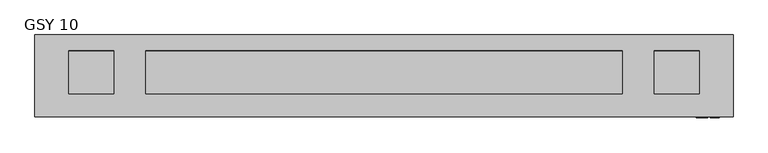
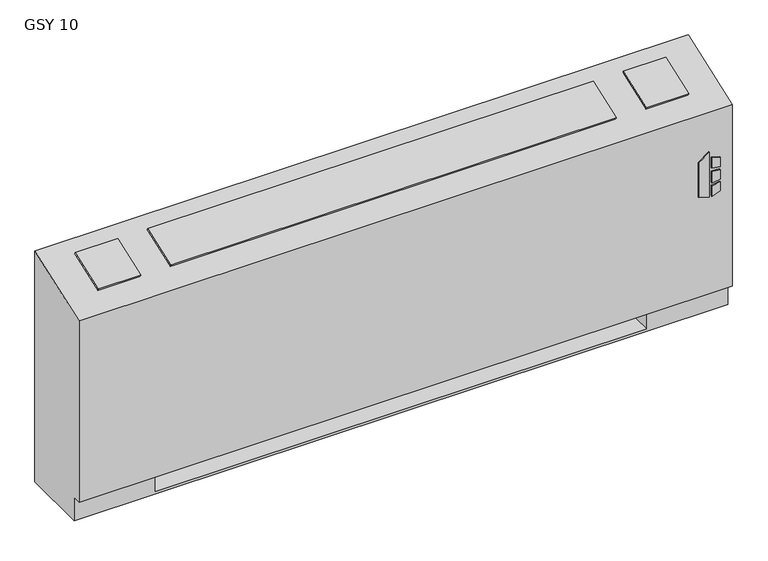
"""IFC4 building model written with IfcOpenShell, lengths in millimetres: proxy geometry, Vertical_Fan_Coil_Unit_-_GSY_-_IEC_-_2-Pipe_TS-FR_RH_2022 : GSY 10."""

import ifcopenshell
import ifcopenshell.guid

model = None  # the IFC model being written
_history = None  # IfcOwnerHistory: only IFC2X3 demands one
_inside = {}  # id of a spatial element -> (the spatial element, [elements in it])
_under = {}  # id of a project, library or spatial element -> (it, [spatial elements below it])
_declared = {}  # id of a project -> (the project, [libraries it declares])
_typed = {}  # id of a type object -> (the type object, [elements of that type])
_made_of = {}  # id of a material, layer set ... -> (it, [elements and type objects made of it])


def new_model(schema):
    """Start an empty IFC model of exactly this schema.

    Asked for "IFC4X3", IfcOpenShell would pick the latest addendum, in which some entities
    have other attributes; the version numbers below select the first issue.
    IFC2X3 requires an IfcOwnerHistory on every rooted entity: one is made here for all.
    """
    global model, _history
    if schema == "IFC4X3":
        model = ifcopenshell.file(schema_version=(4, 3, 0, 0))
    else:
        model = ifcopenshell.file(schema=schema)
    _inside.clear()
    _under.clear()
    _declared.clear()
    _typed.clear()
    _made_of.clear()
    _history = None
    if model.schema == "IFC2X3":
        org = make("IfcOrganization", Name="unknown")
        user = make(
            "IfcPersonAndOrganization",
            ThePerson=make("IfcPerson", FamilyName="unknown"),
            TheOrganization=org,
        )
        app = make(
            "IfcApplication",
            ApplicationDeveloper=org,
            Version="unknown",
            ApplicationFullName="unknown",
            ApplicationIdentifier="unknown",
        )
        _history = make(
            "IfcOwnerHistory",
            OwningUser=user,
            OwningApplication=app,
            ChangeAction="ADDED",
            CreationDate=0,
        )
    return model


def make(cls, **values):
    """One entity of the class cls with the attributes given. An attribute that is None is left unset."""
    return model.create_entity(
        cls, **{name: value for name, value in values.items() if value is not None}
    )


def rooted(cls, **values):
    """An entity with a GlobalId (a new one), such as an element, a storey or a relation."""
    return make(cls, GlobalId=ifcopenshell.guid.new(), OwnerHistory=_history, **values)


def si_unit(unit_type, name, prefix=None):
    """IfcSIUnit, for example si_unit("LENGTHUNIT", "METRE", prefix="MILLI")."""
    return make("IfcSIUnit", UnitType=unit_type, Prefix=prefix, Name=name)


def assignment(units):
    """IfcUnitAssignment: the units of a project."""
    return None if units is None else make("IfcUnitAssignment", Units=units)


def point(xyz):
    """IfcCartesianPoint."""
    return None if xyz is None else make("IfcCartesianPoint", Coordinates=xyz)


def direction(xyz):
    """IfcDirection."""
    return None if xyz is None else make("IfcDirection", DirectionRatios=xyz)


def frame(location, z_axis=None, x_axis=None):
    """IfcAxis2Placement3D, a coordinate frame: its origin and axes. An axis left out is left unset."""
    return make(
        "IfcAxis2Placement3D",
        Location=point(location),
        Axis=direction(z_axis),
        RefDirection=direction(x_axis),
    )


def frame_2d(location, x_axis=None):
    """IfcAxis2Placement2D, a coordinate frame in the plane: its origin and x axis."""
    return make(
        "IfcAxis2Placement2D", Location=point(location), RefDirection=direction(x_axis)
    )


def origin():
    """The frame at (0, 0, 0) with its axes left unset."""
    return frame((0.0, 0.0, 0.0))


def place(relative_to, where):
    """IfcLocalPlacement: puts the frame where relative to a parent placement (None: the world)."""
    return make(
        "IfcLocalPlacement", PlacementRelTo=relative_to, RelativePlacement=where
    )


def context(
    kind, dimensions, precision=None, world=None, true_north=None, identifier=None
):
    """IfcGeometricRepresentationContext, for example the 3D "Model" context."""
    return make(
        "IfcGeometricRepresentationContext",
        ContextIdentifier=identifier,
        ContextType=kind,
        CoordinateSpaceDimension=dimensions,
        Precision=precision,
        WorldCoordinateSystem=world,
        TrueNorth=true_north,
    )


def project(units=None, contexts=None):
    """IfcProject with its units and contexts."""
    return rooted(
        "IfcProject",
        Name="project",
        RepresentationContexts=contexts,
        UnitsInContext=assignment(units),
    )


def spatial(cls, under=None, at=None, **own):
    """A site, building, storey or space (cls), placed at a placement, below another one or the project."""
    s = rooted(cls, ObjectPlacement=at, **own)
    if under is not None:
        _under.setdefault(under.id(), (under, []))[1].append(s)
    return s


def polyline(points):
    """IfcPolyline through the points."""
    return make("IfcPolyline", Points=[point(p) for p in points])


def circle_curve(where, radius):
    """IfcCircle in the frame where."""
    return make("IfcCircle", Position=where, Radius=radius)


def trimmed(basis, trim1, trim2, sense, master):
    """IfcTrimmedCurve: the piece of a basis curve between two trims."""
    return make(
        "IfcTrimmedCurve",
        BasisCurve=basis,
        Trim1=trim1,
        Trim2=trim2,
        SenseAgreement=sense,
        MasterRepresentation=master,
    )


def segment(curve, same_sense, transition):
    """IfcCompositeCurveSegment."""
    return make(
        "IfcCompositeCurveSegment",
        Transition=transition,
        SameSense=same_sense,
        ParentCurve=curve,
    )


def composite_curve(segments, self_intersect=None):
    """IfcCompositeCurve: segments joined end to end."""
    return make("IfcCompositeCurve", Segments=segments, SelfIntersect=self_intersect)


def outline(outer, holes=None, kind="AREA"):
    """IfcArbitraryClosedProfileDef: a profile drawn as a closed curve; with holes, ...WithVoids."""
    if holes is None:
        return make("IfcArbitraryClosedProfileDef", ProfileType=kind, OuterCurve=outer)
    return make(
        "IfcArbitraryProfileDefWithVoids",
        ProfileType=kind,
        OuterCurve=outer,
        InnerCurves=holes,
    )


def extrude(swept, where, along, depth):
    """IfcExtrudedAreaSolid: the profile swept, set in the frame where, extruded along a direction by depth."""
    return make(
        "IfcExtrudedAreaSolid",
        SweptArea=swept,
        Position=where,
        ExtrudedDirection=direction(along),
        Depth=depth,
    )


def shape(context_of_items, identifier, shape_type, items):
    """IfcShapeRepresentation: the items that make up one representation, for example the "Body"."""
    return make(
        "IfcShapeRepresentation",
        ContextOfItems=context_of_items,
        RepresentationIdentifier=identifier,
        RepresentationType=shape_type,
        Items=items,
    )


def source(mapping_origin, context_of_items, identifier, shape_type, items):
    """IfcRepresentationMap: a shape defined once, which mapped items show again and again."""
    return make(
        "IfcRepresentationMap",
        MappingOrigin=mapping_origin,
        MappedRepresentation=shape(context_of_items, identifier, shape_type, items),
    )


def transform(
    local_origin,
    x_axis=None,
    y_axis=None,
    z_axis=None,
    scale=None,
    scale2=None,
    scale3=None,
    uniform=True,
):
    """IfcCartesianTransformationOperator3D, or its non-uniform kind. x_axis, y_axis, z_axis: its Axis1, 2, 3."""
    if uniform:
        return make(
            "IfcCartesianTransformationOperator3D",
            Axis1=direction(x_axis),
            Axis2=direction(y_axis),
            LocalOrigin=point(local_origin),
            Scale=scale,
            Axis3=direction(z_axis),
        )
    return make(
        "IfcCartesianTransformationOperator3DnonUniform",
        Axis1=direction(x_axis),
        Axis2=direction(y_axis),
        LocalOrigin=point(local_origin),
        Scale=scale,
        Axis3=direction(z_axis),
        Scale2=scale2,
        Scale3=scale3,
    )


def mapped(mapping_source, mapping_target):
    """IfcMappedItem: shows the shape of a source again, moved by a transform."""
    return make(
        "IfcMappedItem", MappingSource=mapping_source, MappingTarget=mapping_target
    )


def made_of(thing, what):
    """Note that an element or type object is made of a material, layer set ...; save() writes the relation."""
    if what is not None:
        _made_of.setdefault(what.id(), (what, []))[1].append(thing)
    return thing


def element(
    cls,
    number,
    at=None,
    inside=None,
    cuts=None,
    type_object=None,
    material=None,
    context=None,
    identifier="Body",
    shape_type=None,
    held_by="IfcProductDefinitionShape",
    body=None,
    shapes=None,
    **own,
):
    """One element of the class cls, such as IfcWall. Its Tag is "e" and its number.

    at: its placement. inside: the storey or other place that contains it. cuts: it is an
    opening in that element (IfcRelVoidsElement). A single representation is given by context,
    identifier, shape_type and body (its items); several are given by shapes. held_by: the class
    of the entity that holds the representations. save() writes the other relations.
    """
    e = rooted(cls, Tag="e%d" % number, ObjectPlacement=at, **own)
    if body is not None:
        shapes = [shape(context, identifier, shape_type, body)]
    if shapes is not None:
        e.Representation = make(held_by, Representations=shapes)
    if inside is not None:
        _inside.setdefault(inside.id(), (inside, []))[1].append(e)
    if cuts is not None:
        rooted(
            "IfcRelVoidsElement", RelatingBuildingElement=cuts, RelatedOpeningElement=e
        )
    if type_object is not None:
        _typed.setdefault(type_object.id(), (type_object, []))[1].append(e)
    return made_of(e, material)


def aggregate(whole, parts):
    """IfcRelAggregates: a whole, such as a stair, and the parts it consists of."""
    return rooted("IfcRelAggregates", RelatingObject=whole, RelatedObjects=parts)


def save(model, path):
    """Write the relations noted so far, then the file.

    IfcRelAggregates (storeys below a building ...), IfcRelContainedInSpatialStructure (elements
    in a storey), IfcRelDefinesByType, IfcRelAssociatesMaterial and IfcRelDeclares: one each for
    every whole, place, type object, material and project.
    """
    for whole, parts in _under.values():
        aggregate(whole, parts)
    for where, things in _inside.values():
        rooted(
            "IfcRelContainedInSpatialStructure",
            RelatedElements=things,
            RelatingStructure=where,
        )
    for kind, things in _typed.values():
        rooted("IfcRelDefinesByType", RelatedObjects=things, RelatingType=kind)
    for what, things in _made_of.values():
        rooted("IfcRelAssociatesMaterial", RelatedObjects=things, RelatingMaterial=what)
    for by, libraries in _declared.values():
        rooted("IfcRelDeclares", RelatingContext=by, RelatedDefinitions=libraries)
    model.write(path)


def plane_surface(at):
    """IfcPlane: the flat surface through the origin of the frame at, square to its z axis."""
    return make("IfcPlane", Position=at)


def revolved_surface(curve, axis_point, axis_direction):
    """IfcSurfaceOfRevolution: the curve turned about the line through axis_point along axis_direction."""
    return make(
        "IfcSurfaceOfRevolution",
        SweptCurve=make("IfcArbitraryOpenProfileDef", ProfileType="CURVE", Curve=curve),
        AxisPosition=make("IfcAxis1Placement", Location=point(axis_point), Axis=direction(axis_direction)),
    )


def advanced_brep(points, edges, surfaces, faces):
    """IfcAdvancedBrep: a solid bounded by faces that lie on surfaces and meet in shared edges.

    An edge is (start, end): straight between two places in points (the first is 0);
    or (start, end, curve); or (start, end, curve, False) where it runs against its curve.
    A face is (place in surfaces, loops), or (place, loops, False) where it looks against
    its surface's normal. A loop lists edges by number (the first is 1), with a minus sign
    where the edge is run from its end to its start. The first loop is the outer one.
    """
    corners = [point(p) for p in points]
    vertices = [make("IfcVertexPoint", VertexGeometry=c) for c in corners]
    made = []
    for start, end, *more in edges:
        made.append(
            make(
                "IfcEdgeCurve",
                EdgeStart=vertices[start],
                EdgeEnd=vertices[end],
                EdgeGeometry=more[0] if more else make("IfcPolyline", Points=[corners[start], corners[end]]),
                SameSense=more[1] if len(more) > 1 else True,
            )
        )
    hull = []
    for where, loops, *sense in faces:
        bounds = []
        for j, loop in enumerate(loops):
            ring = [make("IfcOrientedEdge", EdgeElement=made[abs(k) - 1], Orientation=k > 0) for k in loop]
            bounds.append(
                make(
                    "IfcFaceOuterBound" if j == 0 else "IfcFaceBound",
                    Bound=make("IfcEdgeLoop", EdgeList=ring),
                    Orientation=True,
                )
            )
        hull.append(make("IfcAdvancedFace", Bounds=bounds, FaceSurface=surfaces[where], SameSense=sense[0] if sense else True))
    return make("IfcAdvancedBrep", Outer=make("IfcClosedShell", CfsFaces=hull))


def gsy_10_18e08ca5(model_context):
    return source(origin(), model_context, "Body", "SolidModel", [
        extrude(outline(polyline([(391.6086829, 1027.1868862), (381.6606126, 1059.3602728), (523.831537, 1059.3602728), (500.8095309, 1027.1868862), (391.6086829, 1027.1868862)])), frame((0.0, 12.7, 0.0), z_axis=(0.0, 1.0, 0.0), x_axis=(0.0, 0.0, 1.0)), (0.0, 0.0, 1.0), 3.175),
        extrude(outline(polyline([(470.6079683, 1066.1186058), (467.4055757, 1092.2), (496.6344168, 1092.2), (504.6988318, 1066.1186058), (470.6079683, 1066.1186058)])), frame((0.0, 12.7, 0.0), z_axis=(0.0, 1.0, 0.0), x_axis=(0.0, 0.0, 1.0)), (0.0, 0.0, 1.0), 3.175),
        extrude(outline(polyline([(418.7444414, 1092.2), (415.0789404, 1066.1186058), (381.6606126, 1066.1186058), (390.2948498, 1092.2), (418.7444414, 1092.2)])), frame((0.0, 12.7, 0.0), z_axis=(0.0, 1.0, 0.0), x_axis=(0.0, 0.0, 1.0)), (0.0, 0.0, 1.0), 3.175),
        extrude(outline(polyline([(458.0596028, 1092.2), (460.3414292, 1066.1186058), (424.4038806, 1066.1186058), (427.1451456, 1092.2), (458.0596028, 1092.2)])), frame((0.0, 12.7, 0.0), z_axis=(0.0, 1.0, 0.0), x_axis=(0.0, 0.0, 1.0)), (0.0, 0.0, 1.0), 3.175),
        extrude(outline(polyline([(0.0, -126.2347031), (0.0, 0.0), (127.0, 0.0), (127.0, -126.2347031), (0.0, -126.2347031)])), frame((-731.393, 200.4217127, 714.3418685), z_axis=(0.0, -0.33964446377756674, 0.9405538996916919), x_axis=(1.0, 0.0, 0.0)), (0.0, 0.0, 1.0), 6.35),
        extrude(outline(polyline([(0.0, -126.2347031), (0.0, 0.0), (1333.5, 0.0), (1333.5, -126.2347031), (0.0, -126.2347031)])), frame((819.15, 81.6911704, 671.4669504), z_axis=(0.0, -0.3396444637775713, 0.9405538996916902), x_axis=(-1.0, 0.0, 0.0)), (0.0, 0.0, 1.0), 6.35),
        extrude(outline(polyline([(0.0, -126.2347031), (0.0, 0.0), (127.0, 0.0), (127.0, -126.2347031), (0.0, -126.2347031)])), frame((1036.193, 81.6911704, 671.4669504), z_axis=(0.0, -0.3396444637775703, 0.9405538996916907), x_axis=(-1.0, 0.0, 0.0)), (0.0, 0.0, 1.0), 6.35),
        extrude(outline(polyline([(-704.85, 81.534), (-704.85, 223.266), (-127.0, 223.266), (-127.0, 81.534), (-704.85, 81.534)])), frame((0.0, 0.0, 327.025), z_axis=(0.0, 0.0, 1.0), x_axis=(1.0, 0.0, 0.0)), (0.0, 0.0, 1.0), 260.35),
        extrude(outline(composite_curve([segment(trimmed(circle_curve(frame_2d((80.645, 397.002)), 7.9375), [point((80.645, 404.9395))], [point((80.645, 389.0645))], False, "CARTESIAN"), True, "CONTINUOUS"), segment(trimmed(circle_curve(frame_2d((80.645, 397.002)), 7.9375), [point((80.645, 389.0645))], [point((80.645, 404.9395))], False, "CARTESIAN"), True, "CONTINUOUS")], self_intersect=False)), frame((889.0, 0.0, 0.0), z_axis=(1.0, 0.0, 0.0), x_axis=(0.0, 1.0, 0.0)), (0.0, 0.0, 1.0), 50.8),
        extrude(outline(composite_curve([segment(trimmed(circle_curve(frame_2d((156.8958, 535.8892)), 7.9375), [point((156.8958, 543.8267))], [point((156.8958, 527.9517))], False, "CARTESIAN"), True, "CONTINUOUS"), segment(trimmed(circle_curve(frame_2d((156.8958, 535.8892)), 7.9375), [point((156.8958, 527.9517))], [point((156.8958, 543.8267))], False, "CARTESIAN"), True, "CONTINUOUS")], self_intersect=False)), frame((889.0, 0.0, 0.0), z_axis=(1.0, 0.0, 0.0), x_axis=(0.0, 1.0, 0.0)), (0.0, 0.0, 1.0), 50.8),
        advanced_brep(
        [(-825.5, 244.475, 0.0), (1130.3, 244.475, 0.0), (1130.3, 41.275, 0.0), (-825.5, 41.275, 0.0), (-825.5, 244.475, 730.25), (1130.3, 244.475, 730.25), (889.0, 244.475, 73.025), (1117.6, 244.475, 73.025), (1117.6, 244.475, 654.05), (889.0, 244.475, 654.05), (889.0, 244.475, 414.8650565), (917.575, 244.475, 414.8650565), (917.575, 244.475, 385.2349435), (889.0, 244.475, 385.2349435), (889.0, 244.475, 287.3375), (917.575, 244.475, 287.3375), (917.575, 244.475, 258.7625), (889.0, 244.475, 258.7625), (889.0, 244.475, 141.2875), (917.575, 244.475, 141.2875), (917.575, 244.475, 112.7125), (889.0, 244.475, 112.7125), (-584.2, 244.475, 654.05), (-812.8, 244.475, 654.05), (-812.8, 244.475, 73.025), (-584.2, 244.475, 73.025), (-584.2, 244.475, 112.7125), (-612.775, 244.475, 112.7125), (-612.775, 244.475, 141.2875), (-584.2, 244.475, 141.2875), (-584.2, 244.475, 258.7625), (-612.775, 244.475, 258.7625), (-612.775, 244.475, 287.3375), (-584.2, 244.475, 287.3375), (-584.2, 244.475, 385.2349435), (-612.775, 244.475, 385.2349435), (-612.775, 244.475, 414.8650565), (-584.2, 244.475, 414.8650565), (907.2626, 244.475, 127.0), (896.1374, 244.475, 127.0), (907.2626, 244.475, 400.05), (896.1374, 244.475, 400.05), (907.2626, 244.475, 273.05), (896.1374, 244.475, 273.05), (-591.3374, 244.475, 127.0), (-602.4626, 244.475, 127.0), (-591.3374, 244.475, 273.05), (-602.4626, 244.475, 273.05), (-591.3374, 244.475, 400.05), (-602.4626, 244.475, 400.05), (-825.5, 41.275, 73.025), (-825.5, 15.875, 73.025), (-825.5, 15.875, 647.7), (1130.3, 15.875, 73.025), (1130.3, 15.875, 647.7), (1130.3, 41.275, 73.025), (-584.2, 41.275, 73.025), (-584.2, 225.425, 73.025), (889.0, 225.425, 73.025), (889.0, 41.275, 73.025), (889.0, 41.275, 6.35), (-584.2, 41.275, 6.35), (889.0, 41.275, 654.05), (1117.6, 41.275, 654.05), (1117.6, 41.275, 73.025), (889.0, 41.275, 73.025), (-584.2, 41.275, 654.05), (-584.2, 41.275, 73.025), (-812.8, 41.275, 73.025), (-812.8, 41.275, 654.05), (889.0, 225.425, 73.025), (889.0, 238.125, 112.7125), (889.0, 238.125, 141.2875), (889.0, 238.125, 258.7625), (889.0, 238.125, 287.3375), (889.0, 238.125, 385.2349435), (889.0, 238.125, 414.8650565), (-584.2, 225.425, 73.025), (-584.2, 238.125, 414.8650565), (-584.2, 238.125, 385.2349435), (-584.2, 238.125, 287.3375), (-584.2, 238.125, 258.7625), (-584.2, 238.125, 141.2875), (-584.2, 238.125, 112.7125), (-584.2, 225.425, 6.35), (889.0, 225.425, 6.35), (917.575, 238.125, 112.7125), (917.575, 238.125, 141.2875), (896.1374, 238.125, 127.0), (907.2626, 238.125, 127.0), (917.575, 238.125, 258.7625), (917.575, 238.125, 287.3375), (896.1374, 238.125, 273.05), (907.2626, 238.125, 273.05), (917.575, 238.125, 385.2349435), (917.575, 238.125, 414.8650565), (896.1374, 238.125, 400.05), (907.2626, 238.125, 400.05), (-612.775, 238.125, 141.2875), (-612.775, 238.125, 112.7125), (-602.4626, 238.125, 127.0), (-591.3374, 238.125, 127.0), (-612.775, 238.125, 287.3375), (-612.775, 238.125, 258.7625), (-602.4626, 238.125, 273.05), (-591.3374, 238.125, 273.05), (-612.775, 238.125, 414.8650565), (-612.775, 238.125, 385.2349435), (-602.4626, 238.125, 400.05), (-591.3374, 238.125, 400.05)],
        [
            (0, 1),
            (1, 2),
            (2, 3),
            (3, 0),
            (0, 4),
            (4, 5),
            (5, 1),
            (6, 7),
            (7, 8),
            (8, 9),
            (9, 10),
            (10, 11),
            (11, 12),
            (12, 13),
            (13, 14),
            (14, 15),
            (15, 16),
            (16, 17),
            (17, 18),
            (18, 19),
            (19, 20),
            (20, 21),
            (21, 6),
            (22, 23),
            (23, 24),
            (24, 25),
            (25, 26),
            (26, 27),
            (27, 28),
            (28, 29),
            (29, 30),
            (30, 31),
            (31, 32),
            (32, 33),
            (33, 34),
            (34, 35),
            (35, 36),
            (36, 37),
            (37, 22),
            (38, 39, circle_curve(frame((901.7, 244.475, 127.0), z_axis=(0.0, -1.0, 0.0), x_axis=(-1.0, 0.0, 0.0)), 5.5626)),
            (39, 38, circle_curve(frame((901.7, 244.475, 127.0), z_axis=(0.0, -1.0, 0.0), x_axis=(-1.0, 0.0, 0.0)), 5.5626)),
            (40, 41, circle_curve(frame((901.7, 244.475, 400.05), z_axis=(0.0, -1.0, 0.0), x_axis=(-1.0, 0.0, 0.0)), 5.5626)),
            (41, 40, circle_curve(frame((901.7, 244.475, 400.05), z_axis=(0.0, -1.0, 0.0), x_axis=(-1.0, 0.0, 0.0)), 5.5626)),
            (42, 43, circle_curve(frame((901.7, 244.475, 273.05), z_axis=(0.0, -1.0, 0.0), x_axis=(-1.0, 0.0, 0.0)), 5.5626)),
            (43, 42, circle_curve(frame((901.7, 244.475, 273.05), z_axis=(0.0, -1.0, 0.0), x_axis=(-1.0, 0.0, 0.0)), 5.5626)),
            (44, 45, circle_curve(frame((-596.9, 244.475, 127.0), z_axis=(0.0, -1.0, 0.0), x_axis=(-1.0, 0.0, 0.0)), 5.5626)),
            (45, 44, circle_curve(frame((-596.9, 244.475, 127.0), z_axis=(0.0, -1.0, 0.0), x_axis=(-1.0, 0.0, 0.0)), 5.5626)),
            (46, 47, circle_curve(frame((-596.9, 244.475, 273.05), z_axis=(0.0, -1.0, 0.0), x_axis=(-1.0, 0.0, 0.0)), 5.5626)),
            (47, 46, circle_curve(frame((-596.9, 244.475, 273.05), z_axis=(0.0, -1.0, 0.0), x_axis=(-1.0, 0.0, 0.0)), 5.5626)),
            (48, 49, circle_curve(frame((-596.9, 244.475, 400.05), z_axis=(0.0, -1.0, 0.0), x_axis=(-1.0, 0.0, 0.0)), 5.5626)),
            (49, 48, circle_curve(frame((-596.9, 244.475, 400.05), z_axis=(0.0, -1.0, 0.0), x_axis=(-1.0, 0.0, 0.0)), 5.5626)),
            (3, 50),
            (50, 51),
            (51, 52),
            (52, 4),
            (51, 53),
            (53, 54),
            (54, 52),
            (5, 54),
            (53, 55),
            (55, 2),
            (50, 56),
            (56, 57),
            (57, 58),
            (58, 59),
            (59, 55),
            (59, 60),
            (60, 61),
            (61, 56),
            (62, 63),
            (63, 64),
            (64, 65),
            (65, 62),
            (66, 67),
            (67, 68),
            (68, 69),
            (69, 66),
            (65, 70),
            (70, 6),
            (21, 71),
            (71, 72),
            (72, 18),
            (17, 73),
            (73, 74),
            (74, 14),
            (13, 75),
            (75, 76),
            (76, 10),
            (9, 62),
            (64, 7),
            (63, 8),
            (69, 23),
            (22, 66),
            (68, 24),
            (67, 77),
            (77, 25),
            (37, 78),
            (78, 79),
            (79, 34),
            (33, 80),
            (80, 81),
            (81, 30),
            (29, 82),
            (82, 83),
            (83, 26),
            (57, 84),
            (84, 85),
            (85, 58),
            (85, 60),
            (84, 61),
            (71, 86),
            (86, 87),
            (87, 72),
            (88, 89, circle_curve(frame((901.7, 238.125, 127.0), z_axis=(0.0, 1.0, 0.0), x_axis=(-1.0, 0.0, 0.0)), 5.5626)),
            (89, 88, circle_curve(frame((901.7, 238.125, 127.0), z_axis=(0.0, 1.0, 0.0), x_axis=(-1.0, 0.0, 0.0)), 5.5626)),
            (73, 90),
            (90, 91),
            (91, 74),
            (92, 93, circle_curve(frame((901.7, 238.125, 273.05), z_axis=(0.0, 1.0, 0.0), x_axis=(-1.0, 0.0, 0.0)), 5.5626)),
            (93, 92, circle_curve(frame((901.7, 238.125, 273.05), z_axis=(0.0, 1.0, 0.0), x_axis=(-1.0, 0.0, 0.0)), 5.5626)),
            (75, 94),
            (94, 95),
            (95, 76),
            (96, 97, circle_curve(frame((901.7, 238.125, 400.05), z_axis=(0.0, 1.0, 0.0), x_axis=(-1.0, 0.0, 0.0)), 5.5626)),
            (97, 96, circle_curve(frame((901.7, 238.125, 400.05), z_axis=(0.0, 1.0, 0.0), x_axis=(-1.0, 0.0, 0.0)), 5.5626)),
            (98, 99),
            (99, 83),
            (82, 98),
            (100, 101, circle_curve(frame((-596.9, 238.125, 127.0), z_axis=(0.0, 1.0, 0.0), x_axis=(-1.0, 0.0, 0.0)), 5.5626)),
            (101, 100, circle_curve(frame((-596.9, 238.125, 127.0), z_axis=(0.0, 1.0, 0.0), x_axis=(-1.0, 0.0, 0.0)), 5.5626)),
            (102, 103),
            (103, 81),
            (80, 102),
            (104, 105, circle_curve(frame((-596.9, 238.125, 273.05), z_axis=(0.0, 1.0, 0.0), x_axis=(-1.0, 0.0, 0.0)), 5.5626)),
            (105, 104, circle_curve(frame((-596.9, 238.125, 273.05), z_axis=(0.0, 1.0, 0.0), x_axis=(-1.0, 0.0, 0.0)), 5.5626)),
            (106, 107),
            (107, 79),
            (78, 106),
            (108, 109, circle_curve(frame((-596.9, 238.125, 400.05), z_axis=(0.0, 1.0, 0.0), x_axis=(-1.0, 0.0, 0.0)), 5.5626)),
            (109, 108, circle_curve(frame((-596.9, 238.125, 400.05), z_axis=(0.0, 1.0, 0.0), x_axis=(-1.0, 0.0, 0.0)), 5.5626)),
            (87, 19),
            (86, 20),
            (91, 15),
            (90, 16),
            (95, 11),
            (94, 12),
            (28, 98),
            (99, 27),
            (32, 102),
            (103, 31),
            (36, 106),
            (107, 35),
            (88, 39),
            (38, 89),
            (96, 41),
            (40, 97),
            (92, 43),
            (42, 93),
            (100, 45),
            (44, 101),
            (104, 47),
            (46, 105),
            (108, 49),
            (48, 109),
        ],
        [
            plane_surface(frame((-825.5, 244.475, 0.0), z_axis=(0.0, 0.0, -1.0), x_axis=(1.0, 0.0, 0.0))),
            plane_surface(frame((1130.3, 244.475, 730.25), z_axis=(0.0, 1.0, 0.0), x_axis=(0.0, 0.0, -1.0))),
            plane_surface(frame((-825.5, 244.475, 730.25), z_axis=(-1.0, 0.0, 0.0), x_axis=(0.0, 0.0, -1.0))),
            plane_surface(frame((-825.5, 15.875, 730.25), z_axis=(0.0, -1.0, 0.0), x_axis=(0.0, 0.0, -1.0))),
            plane_surface(frame((1130.3, 15.875, 730.25), z_axis=(1.0, 0.0, 0.0), x_axis=(0.0, 0.0, -1.0))),
            plane_surface(frame((-825.5, 15.875, 73.025), z_axis=(0.0, 0.0, -1.0), x_axis=(1.0, 0.0, 0.0))),
            plane_surface(frame((-825.5, 41.275, 73.025), z_axis=(0.0, -1.0, 0.0), x_axis=(1.0, 0.0, 0.0))),
            plane_surface(frame((889.0, 41.275, 654.05), z_axis=(0.0, 1.0, 0.0), x_axis=(0.0, 0.0, -1.0))),
            plane_surface(frame((889.0, 41.275, 654.05), z_axis=(1.0, 0.0, 0.0), x_axis=(0.0, 1.0, 0.0))),
            plane_surface(frame((889.0, 41.275, 73.025), z_axis=(0.0, 0.0, 1.0), x_axis=(0.0, 1.0, 0.0))),
            plane_surface(frame((1117.6, 41.275, 73.025), z_axis=(-1.0, 0.0, 0.0), x_axis=(0.0, 1.0, 0.0))),
            plane_surface(frame((1117.6, 41.275, 654.05), z_axis=(0.0, 0.0, -1.0), x_axis=(0.0, 1.0, 0.0))),
            plane_surface(frame((-584.2, 41.275, 654.05), z_axis=(0.0, 0.0, -1.0), x_axis=(0.0, 1.0, 0.0))),
            plane_surface(frame((-812.8, 41.275, 654.05), z_axis=(1.0, 0.0, 0.0), x_axis=(0.0, 1.0, 0.0))),
            plane_surface(frame((-812.8, 41.275, 73.025), z_axis=(0.0, 0.0, 1.0), x_axis=(0.0, 1.0, 0.0))),
            plane_surface(frame((-584.2, 41.275, 73.025), z_axis=(-1.0, 0.0, 0.0), x_axis=(0.0, 1.0, 0.0))),
            plane_surface(frame((889.0, 225.425, 73.025), z_axis=(0.0, -1.0, 0.0), x_axis=(0.0, 0.0, -1.0))),
            plane_surface(frame((889.0, 225.425, 73.025), z_axis=(-1.0, 0.0, 0.0), x_axis=(0.0, -1.0, 0.0))),
            plane_surface(frame((889.0, 225.425, 6.35), z_axis=(0.0, 0.0, 1.0), x_axis=(0.0, -1.0, 0.0))),
            plane_surface(frame((-584.2, 225.425, 6.35), z_axis=(1.0, 0.0, 0.0), x_axis=(0.0, -1.0, 0.0))),
            plane_surface(frame((917.575, 238.125, 141.2875), z_axis=(0.0, -1.0, 0.0), x_axis=(-1.0, 0.0, 0.0))),
            plane_surface(frame((889.0, 244.475, 141.2875), z_axis=(0.0, 0.0, 1.0), x_axis=(0.0, -1.0, 0.0))),
            plane_surface(frame((917.575, 244.475, 141.2875), z_axis=(1.0, 0.0, 0.0), x_axis=(0.0, -1.0, 0.0))),
            plane_surface(frame((917.575, 244.475, 112.7125), z_axis=(0.0, 0.0, -1.0), x_axis=(0.0, -1.0, 0.0))),
            plane_surface(frame((889.0, 244.475, 287.3375), z_axis=(0.0, 0.0, 1.0), x_axis=(0.0, -1.0, 0.0))),
            plane_surface(frame((917.575, 244.475, 287.3375), z_axis=(1.0, 0.0, 0.0), x_axis=(0.0, -1.0, 0.0))),
            plane_surface(frame((917.575, 244.475, 258.7625), z_axis=(0.0, 0.0, -1.0), x_axis=(0.0, -1.0, 0.0))),
            plane_surface(frame((889.0, 244.475, 414.8650565), z_axis=(0.0, 0.0, 1.0), x_axis=(0.0, -1.0, 0.0))),
            plane_surface(frame((917.575, 244.475, 414.8650565), z_axis=(1.0, 0.0, 0.0), x_axis=(0.0, -1.0, 0.0))),
            plane_surface(frame((917.575, 244.475, 385.2349435), z_axis=(0.0, 0.0, -1.0), x_axis=(0.0, -1.0, 0.0))),
            plane_surface(frame((-612.775, 244.475, 141.2875), z_axis=(0.0, 0.0, 1.0), x_axis=(0.0, -1.0, 0.0))),
            plane_surface(frame((-584.2, 244.475, 112.7125), z_axis=(0.0, 0.0, -1.0), x_axis=(0.0, -1.0, 0.0))),
            plane_surface(frame((-612.775, 244.475, 112.7125), z_axis=(-1.0, 0.0, 0.0), x_axis=(0.0, -1.0, 0.0))),
            plane_surface(frame((-612.775, 244.475, 287.3375), z_axis=(0.0, 0.0, 1.0), x_axis=(0.0, -1.0, 0.0))),
            plane_surface(frame((-584.2, 244.475, 258.7625), z_axis=(0.0, 0.0, -1.0), x_axis=(0.0, -1.0, 0.0))),
            plane_surface(frame((-612.775, 244.475, 258.7625), z_axis=(-1.0, 0.0, 0.0), x_axis=(0.0, -1.0, 0.0))),
            plane_surface(frame((-612.775, 244.475, 414.8650565), z_axis=(0.0, 0.0, 1.0), x_axis=(0.0, -1.0, 0.0))),
            plane_surface(frame((-584.2, 244.475, 385.2349435), z_axis=(0.0, 0.0, -1.0), x_axis=(0.0, -1.0, 0.0))),
            plane_surface(frame((-612.775, 244.475, 385.2349435), z_axis=(-1.0, 0.0, 0.0), x_axis=(0.0, -1.0, 0.0))),
            revolved_surface(polyline([(896.1374000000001, 238.125, 127.0), (896.1374000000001, 244.475, 127.0)]), (901.7, 244.475, 127.0), (0.0, -1.0, 0.0)),
            revolved_surface(polyline([(896.1374000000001, 238.125, 400.05), (896.1374000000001, 244.475, 400.05)]), (901.7, 244.475, 400.05), (0.0, -1.0, 0.0)),
            revolved_surface(polyline([(896.1374000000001, 238.125, 273.05), (896.1374000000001, 244.475, 273.05)]), (901.7, 244.475, 273.05), (0.0, -1.0, 0.0)),
            revolved_surface(polyline([(-602.4626, 238.125, 127.0), (-602.4626, 244.475, 127.0)]), (-596.9, 244.475, 127.0), (0.0, -1.0, 0.0)),
            revolved_surface(polyline([(-602.4626, 238.125, 273.05), (-602.4626, 244.475, 273.05)]), (-596.9, 244.475, 273.05), (0.0, -1.0, 0.0)),
            revolved_surface(polyline([(-602.4626, 238.125, 400.05), (-602.4626, 244.475, 400.05)]), (-596.9, 244.475, 400.05), (0.0, -1.0, 0.0)),
            plane_surface(frame((-825.5, 244.475, 730.25), z_axis=(0.0, -0.33964446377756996, 0.9405538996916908), x_axis=(1.0, 0.0, 0.0))),
        ],
        [
            (0, [[1, 2, 3, 4]]),
            (1, [[-1, 5, 6, 7], [8, 9, 10, 11, 12, 13, 14, 15, 16, 17, 18, 19, 20, 21, 22, 23], [24, 25, 26, 27, 28, 29, 30, 31, 32, 33, 34, 35, 36, 37, 38, 39], [40, 41], [42, 43], [44, 45], [46, 47], [48, 49], [50, 51]]),
            (2, [[-5, -4, 52, 53, 54, 55]]),
            (3, [[56, 57, 58, -54]]),
            (4, [[-7, 59, -57, 60, 61, -2]]),
            (5, [[-53, 62, 63, 64, 65, 66, -60, -56]]),
            (6, [[-3, -61, -66, 67, 68, 69, -62, -52]]),
            (7, [[70, 71, 72, 73]]),
            (7, [[74, 75, 76, 77]]),
            (8, [[-73, 78, 79, -23, 80, 81, 82, -19, 83, 84, 85, -15, 86, 87, 88, -11, 89]]),
            (9, [[-72, 90, -8, -79, -78]]),
            (10, [[-71, 91, -9, -90]]),
            (11, [[-70, -89, -10, -91]]),
            (12, [[-77, 92, -24, 93]]),
            (13, [[-76, 94, -25, -92]]),
            (14, [[-75, 95, 96, -26, -94]]),
            (15, [[-74, -93, -39, 97, 98, 99, -35, 100, 101, 102, -31, 103, 104, 105, -27, -96, -95]]),
            (16, [[-64, 106, 107, 108]]),
            (17, [[-108, 109, -67, -65]]),
            (18, [[-107, 110, -68, -109]]),
            (19, [[-106, -63, -69, -110]]),
            (20, [[111, 112, 113, -81], [114, 115]]),
            (20, [[116, 117, 118, -84], [119, 120]]),
            (20, [[121, 122, 123, -87], [124, 125]]),
            (20, [[126, 127, -104, 128], [129, 130]]),
            (20, [[131, 132, -101, 133], [134, 135]]),
            (20, [[136, 137, -98, 138], [139, 140]]),
            (21, [[-113, 141, -20, -82]]),
            (22, [[-112, 142, -21, -141]]),
            (23, [[-111, -80, -22, -142]]),
            (24, [[-118, 143, -16, -85]]),
            (25, [[-117, 144, -17, -143]]),
            (26, [[-116, -83, -18, -144]]),
            (27, [[-123, 145, -12, -88]]),
            (28, [[-122, 146, -13, -145]]),
            (29, [[-121, -86, -14, -146]]),
            (30, [[-128, -103, -30, 147]]),
            (31, [[-127, 148, -28, -105]]),
            (32, [[-126, -147, -29, -148]]),
            (33, [[-133, -100, -34, 149]]),
            (34, [[-132, 150, -32, -102]]),
            (35, [[-131, -149, -33, -150]]),
            (36, [[-138, -97, -38, 151]]),
            (37, [[-137, 152, -36, -99]]),
            (38, [[-136, -151, -37, -152]]),
            (39, [[153, -40, 154, -114]]),
            (39, [[-153, -115, -154, -41]]),
            (40, [[155, -42, 156, -124]]),
            (40, [[-155, -125, -156, -43]]),
            (41, [[157, -44, 158, -119]]),
            (41, [[-157, -120, -158, -45]]),
            (42, [[159, -46, 160, -129]]),
            (42, [[-159, -130, -160, -47]]),
            (43, [[161, -48, 162, -134]]),
            (43, [[-161, -135, -162, -49]]),
            (44, [[163, -50, 164, -139]]),
            (44, [[-163, -140, -164, -51]]),
            (45, [[-6, -55, -58, -59]]),
        ],
    ),
    ])


if __name__ == "__main__":
    model = new_model("IFC4")
    model_context = context("Model", 3, world=origin())
    ifc_project = project(units=[si_unit("LENGTHUNIT", "METRE", prefix="MILLI")], contexts=[model_context])
    site = spatial("IfcSite", under=ifc_project)
    building = spatial("IfcBuilding", under=site)
    placement = place(None, origin())
    gsy_10_shape = gsy_10_18e08ca5(model_context)
    element("IfcBuildingElementProxy", 1, Name="Vertical_Fan_Coil_Unit_-_GSY_-_IEC_-_2-Pipe_TS-FR_RH_2022 : GSY 10", ObjectType="Vertical_Fan_Coil_Unit_-_GSY_-_IEC_-_2-Pipe_TS-FR_RH_2022 : GSY 10", at=placement, inside=building, context=model_context, shape_type="MappedRepresentation", body=[
        mapped(gsy_10_shape, transform((0.0, 0.0, 0.0), x_axis=(1.0, 0.0, 0.0), y_axis=(0.0, 1.0, 0.0), z_axis=(0.0, 0.0, 1.0))),
    ])
    save(model, "model.ifc")
